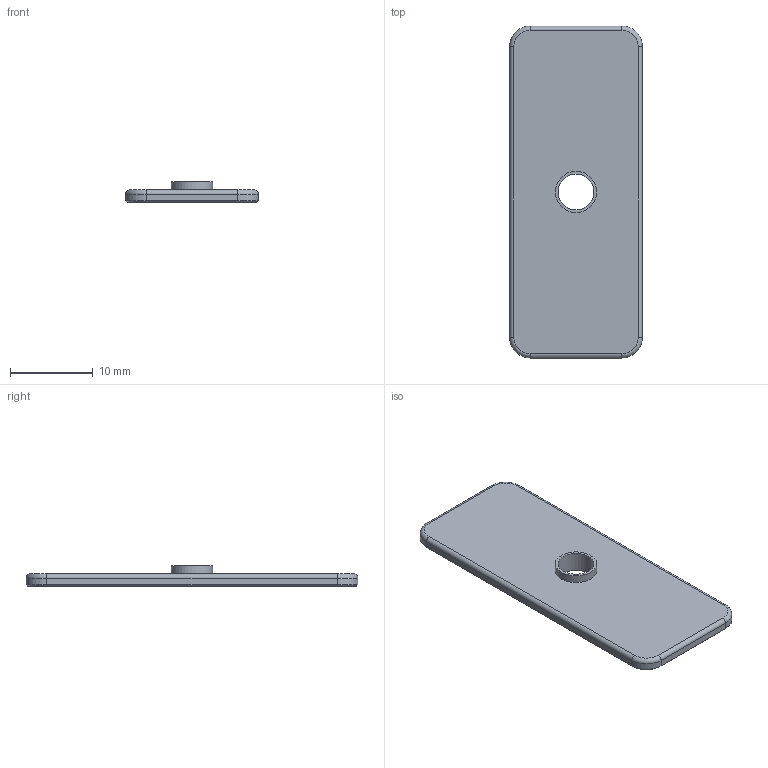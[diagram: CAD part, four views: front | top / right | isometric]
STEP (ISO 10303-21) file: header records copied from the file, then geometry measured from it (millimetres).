
FILE_DESCRIPTION(('Open CASCADE Model'),'2;1');
FILE_NAME('W-RECT-WP40','2026-10-19T21:23:53',('Author'),('Open CASCADE' ),'Open CASCADE STEP processor 8.0','build123d','Unknown');
FILE_SCHEMA(('AUTOMOTIVE_DESIGN { 1 0 10303 214 1 1 1 1 }'));
Length unit declared in the file: millimetre
Products named in the file (2): W-RECT-WP40; brass_WP40__w
Assembly tree (1 placements, depth 2):
  W-RECT-WP40
    brass_WP40__w
Bounding box: 16 x 40 x 2.49 mm (x, y, z)
Volume: 922.4 mm3; surface area: 1425 mm2
Topology: 1 solids, 1 shells, 33 faces, 68 edges, 40 vertices
Faces by surface type: plane 13, cylinder 12, cone 4, torus 4
Full cylindrical faces by diameter (mm): 2 x2, 4.3 x1, 5 x1
Entity records: 1774 total; most frequent: CARTESIAN_POINT 359, DIRECTION 266, ORIENTED_EDGE 136, PCURVE 136, DEFINITIONAL_REPRESENTATION 136, LINE 124, VECTOR 124, EDGE_CURVE 68
